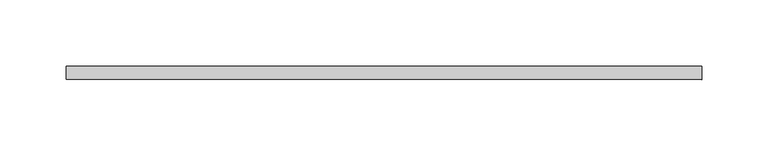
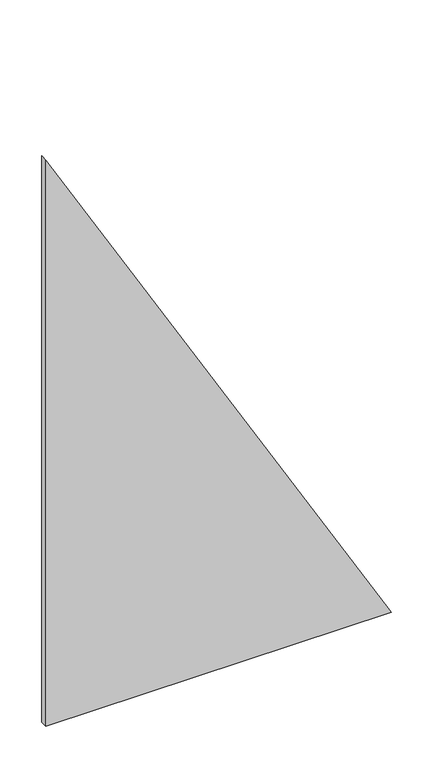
"""IFC4 building model written with IfcOpenShell, lengths in millimetres: plate geometry, 系統嵌板 : 玻璃 1.0cm."""

from ifc_helpers import new_model, si_unit, frame, origin, place, context, project, spatial, polyline, outline, extrude, source, transform, mapped, element, save


def plate_8617dbf4(model_context):
    return source(origin(), model_context, "Body", "SweptSolid", [
        extrude(outline(polyline([(0.0, -240.3810568), (0.0, 240.3810568), (832.704407, -240.3810568), (0.0, -240.3810568)])), frame((0.0, -5.0, 0.0), z_axis=(0.0, 1.0, 0.0), x_axis=(0.0, 0.0, 1.0)), (0.0, 0.0, 1.0), 10.0),
    ])


if __name__ == "__main__":
    model = new_model("IFC4")
    model_context = context("Model", 3, world=origin())
    ifc_project = project(units=[si_unit("LENGTHUNIT", "METRE", prefix="MILLI")], contexts=[model_context])
    site = spatial("IfcSite", under=ifc_project)
    building = spatial("IfcBuilding", under=site)
    placement = place(None, origin())
    plate_shape = plate_8617dbf4(model_context)
    element("IfcPlate", 1, ObjectType="系統嵌板 : 玻璃 1.0cm", at=placement, inside=building, context=model_context, shape_type="MappedRepresentation", body=[
        mapped(plate_shape, transform((0.0, 0.0, 0.0), x_axis=(1.0, 0.0, 0.0), y_axis=(0.0, 1.0, 0.0), z_axis=(0.0, 0.0, 1.0))),
    ])
    save(model, "model.ifc")
